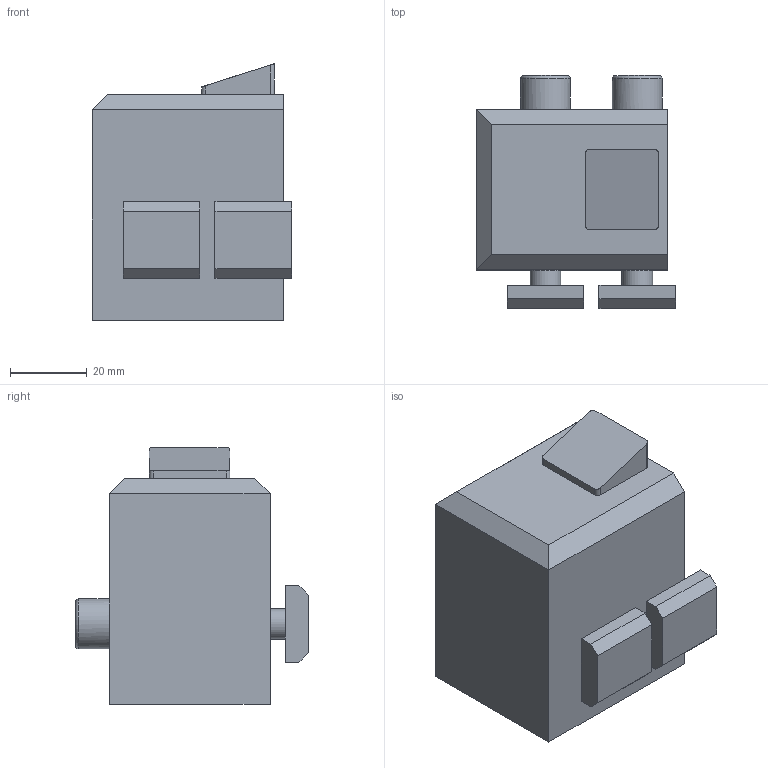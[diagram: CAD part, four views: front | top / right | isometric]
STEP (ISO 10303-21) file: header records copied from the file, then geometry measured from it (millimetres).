
FILE_DESCRIPTION(/* description */ (''),/* implementation_level */ '2;1');
FILE_NAME(/* name */ 'C:\Marketing\01_Versamove-SPU_STEP-Dateien-Homepage\Versamove plus\Rücklaufsperre_feder.stp',/* time_stamp */ '2016-12-22T15:17:26+01:00',/* author */ ('herbert.engels'),/* organization */ (''),/* preprocessor_version */ 'ST-DEVELOPER v15.6',/* originating_system */ 'Autodesk Inventor 2015',/* authorisation */ '');
FILE_SCHEMA (('CONFIG_CONTROL_DESIGN'));
Length unit declared in the file: millimetre
Products named in the file (1): Rücklaufsperre_feder
Bounding box: 52 x 60.8 x 67 mm (x, y, z)
Volume: 132059.6 mm3; surface area: 18210.4 mm2
Topology: 1 solids, 1 shells, 42 faces, 97 edges, 64 vertices
Faces by surface type: plane 32, cylinder 8, torus 2
Full cylindrical faces by diameter (mm): 8 x2, 13 x2
Entity records: 1236 total; most frequent: CARTESIAN_POINT 194, DIRECTION 193, ORIENTED_EDGE 178, EDGE_CURVE 89, LINE 71, VECTOR 71, VERTEX_POINT 62, AXIS2_PLACEMENT_3D 61
